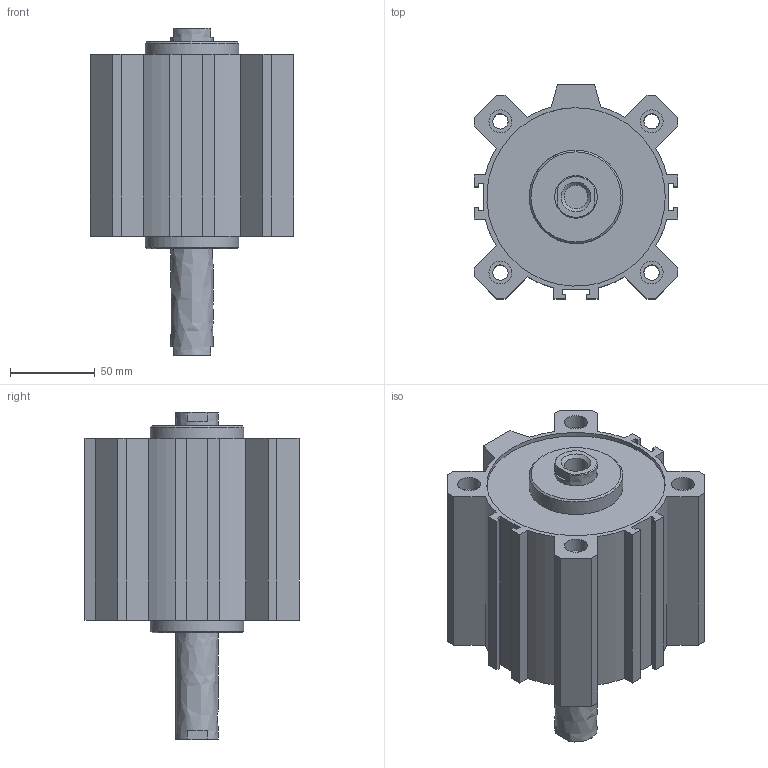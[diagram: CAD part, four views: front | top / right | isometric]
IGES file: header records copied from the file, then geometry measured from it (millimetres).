
Global section: file name: 1514_100_0055; native system: Autodesk Inventor 2014; preprocessor: unknown; author: A. Manieri; date: 20160824.163247; units: millimetre
Bounding box: 120 x 126 x 193 mm (x, y, z)
Volume: 885972.6 mm3; surface area: 185774.2 mm2
Topology: 2 solids, 2 shells, 132 faces, 346 edges, 238 vertices
Faces by surface type: bspline 132
